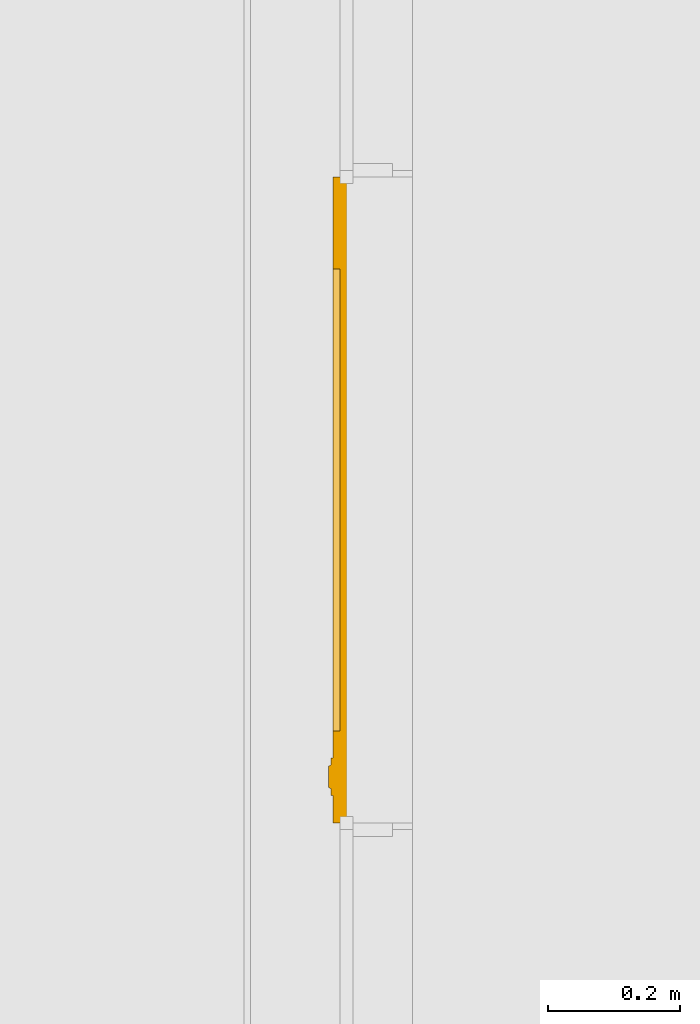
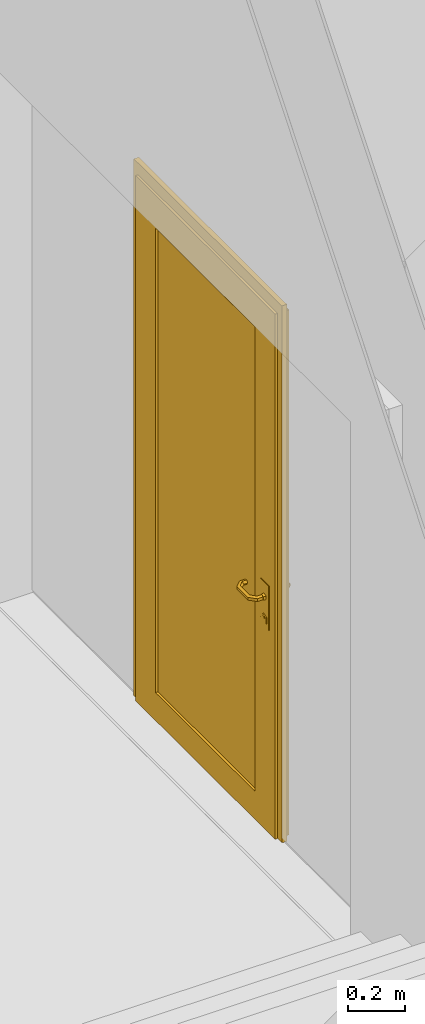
# One storey, part 237 of 260: 1 door, 1 element without a shape of its own.
"""IFC2X3 building model written with IfcOpenShell, lengths in millimetres."""

from ifc_helpers import new_model, entity, si_unit, converted_unit, derived_unit, money_unit, direction, frame, origin_with_axes, place, context, subcontext, project, spatial, open_shell, faceted_brep, surface_model, source, transform, mapped, material, material_list, type_object, element, aggregate, save


model = new_model("IFC2X3")

# Units and contexts
model_context = context("Model", 3, precision=0.01, world=origin_with_axes(), true_north=direction((0.0, 1.0)))
body_context = subcontext(model_context, "Body", "Model", "MODEL_VIEW")
ifc_project = project(units=[si_unit("LENGTHUNIT", "METRE", prefix="MILLI"), si_unit("AREAUNIT", "SQUARE_METRE"), si_unit("VOLUMEUNIT", "CUBIC_METRE"), converted_unit("PLANEANGLEUNIT", "DEGREE", entity("IfcPlaneAngleMeasure", 0.0174532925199), si_unit("PLANEANGLEUNIT", "RADIAN"), dimensions=[0, 0, 0, 0, 0, 0, 0]), money_unit("EUR"), converted_unit("TIMEUNIT", "Year", entity("IfcTimeMeasure", 31556926.0), si_unit("TIMEUNIT", "SECOND"), dimensions=[0, 0, 1, 0, 0, 0, 0]), si_unit("MASSUNIT", "GRAM", prefix="KILO"), si_unit("THERMODYNAMICTEMPERATUREUNIT", "DEGREE_CELSIUS"), si_unit("LUMINOUSINTENSITYUNIT", "LUMEN"), si_unit("ENERGYUNIT", "JOULE", prefix="MEGA"), derived_unit("THERMALCONDUCTANCEUNIT", [(si_unit("POWERUNIT", "WATT"), 1), (si_unit("LENGTHUNIT", "METRE"), -1), (si_unit("THERMODYNAMICTEMPERATUREUNIT", "KELVIN"), -1)]), derived_unit("SPECIFICHEATCAPACITYUNIT", [(si_unit("ENERGYUNIT", "JOULE"), 1), (si_unit("MASSUNIT", "GRAM", prefix="KILO"), -1), (si_unit("THERMODYNAMICTEMPERATUREUNIT", "KELVIN"), -1)]), derived_unit("MASSDENSITYUNIT", [(si_unit("MASSUNIT", "GRAM", prefix="KILO"), 1), (si_unit("VOLUMEUNIT", "CUBIC_METRE"), -1)])], contexts=[model_context])

# Site, building, storey
site_placement = place(None, origin_with_axes())
site = spatial("IfcSite", under=ifc_project, at=site_placement, Name="Kolde pst 67a", CompositionType="ELEMENT")
building_placement = place(site_placement, origin_with_axes())
building = spatial("IfcBuilding", under=site, at=building_placement, Name="Riigigümnaasium", CompositionType="ELEMENT")
storey_placement = place(building_placement, origin_with_axes())
storey = spatial("IfcBuildingStorey", under=building, at=storey_placement, Name="1. korrus", CompositionType="ELEMENT", Elevation=0.0)

# Curtain wall, door
curtain_wall_type = type_object("IfcCurtainWallType", Name="Curtain Wall Type", PredefinedType="NOTDEFINED")
curtain_wall_placement = place(storey_placement, frame((3185.44852283, 58094.9979478, 0.0), z_axis=(0.0, 0.0, 1.0), x_axis=(1.0, 0.0, 0.0)))
curtain_wall = element("IfcCurtainWall", 1, at=curtain_wall_placement, inside=storey, type_object=curtain_wall_type, Name="KLAASSEIN")
ifc_material_1 = material(Name="_METALL - alumiinium")
ifc_material_2 = material(Name="_KLAAS - kirgas")
ifc_material_3 = material(Name="_METALL - roostevaba terasleht, harjatud, 1mm")
ifc_material_list = material_list([ifc_material_1, ifc_material_2, ifc_material_3])
door_style = type_object("IfcDoorStyle", Name="20 x 20 x 20", ConstructionType="NOTDEFINED", OperationType="SINGLE_SWING_RIGHT", ParameterTakesPrecedence=False, Sizeable=False)
shared_shape = source(origin_with_axes(), body_context, "Body", "SurfaceModel", [
    faceted_brep([(990.000013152, 0.0, -35.0), (990.000013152, 2250.00008597, -35.0), (990.000013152, 2250.00008597, -30.0), (990.000013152, 0.0, -30.0), (945.000013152, 0.0, -35.0), (945.000013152, 2205.00008597, -35.0), (945.000013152, 2205.00008597, -30.0), (945.000013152, 0.0, -30.0)], [[[0, 1, 2, 3]], [[0, 4, 5, 1]], [[1, 5, 6, 2]], [[3, 2, 6, 7]], [[4, 0, 3, 7]], [[5, 4, 7, 6]]]),
    faceted_brep([(9.99998697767, 2250.00008597, -35.0), (54.9999869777, 2205.00008597, -35.0), (54.9999869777, 2205.00008597, -30.0), (9.99998697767, 2250.00008597, -30.0), (990.000013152, 2250.00008597, -35.0), (945.000013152, 2205.00008597, -35.0), (945.000013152, 2205.00008597, -30.0), (990.000013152, 2250.00008597, -30.0)], [[[0, 1, 2, 3]], [[0, 4, 5, 1]], [[1, 5, 6, 2]], [[3, 2, 6, 7]], [[4, 0, 3, 7]], [[5, 4, 7, 6]]]),
    faceted_brep([(9.99998697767, 0.0, -35.0), (54.9999869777, 0.0, -35.0), (54.9999869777, 0.0, -30.0), (9.99998697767, 0.0, -30.0), (9.99998697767, 2250.00008597, -35.0), (54.9999869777, 2205.00008597, -35.0), (54.9999869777, 2205.00008597, -30.0), (9.99998697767, 2250.00008597, -30.0)], [[[0, 1, 2, 3]], [[0, 4, 5, 1]], [[1, 5, 6, 2]], [[3, 2, 6, 7]], [[4, 0, 3, 7]], [[5, 4, 7, 6]]]),
    faceted_brep([(990.000013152, 0.0, -30.0), (990.000013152, 2250.00008597, -30.0), (990.000013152, 2250.00008597, 20.0), (990.000013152, 0.0, 20.0), (970.000013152, 0.0, -30.0), (970.000013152, 2230.00008597, -30.0), (970.000013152, 2230.00008597, 20.0), (970.000013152, 0.0, 20.0)], [[[0, 1, 2, 3]], [[0, 4, 5, 1]], [[1, 5, 6, 2]], [[3, 2, 6, 7]], [[4, 0, 3, 7]], [[5, 4, 7, 6]]]),
    faceted_brep([(9.99998697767, 2250.00008597, -30.0), (29.9999869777, 2230.00008597, -30.0), (29.9999869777, 2230.00008597, 20.0), (9.99998697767, 2250.00008597, 20.0), (990.000013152, 2250.00008597, -30.0), (970.000013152, 2230.00008597, -30.0), (970.000013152, 2230.00008597, 20.0), (990.000013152, 2250.00008597, 20.0)], [[[0, 1, 2, 3]], [[0, 4, 5, 1]], [[1, 5, 6, 2]], [[3, 2, 6, 7]], [[4, 0, 3, 7]], [[5, 4, 7, 6]]]),
    faceted_brep([(9.99998697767, 0.0, -30.0), (29.9999869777, 0.0, -30.0), (29.9999869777, 0.0, 20.0), (9.99998697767, 0.0, 20.0), (9.99998697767, 2250.00008597, -30.0), (29.9999869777, 2230.00008597, -30.0), (29.9999869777, 2230.00008597, 20.0), (9.99998697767, 2250.00008597, 20.0)], [[[0, 1, 2, 3]], [[0, 4, 5, 1]], [[1, 5, 6, 2]], [[3, 2, 6, 7]], [[4, 0, 3, 7]], [[5, 4, 7, 6]]]),
    faceted_brep([(1020.00001659, 0.0, -10.0), (1020.00001659, 2300.00008941, -10.0), (1020.00001659, 2300.00008941, 10.0), (1020.00001659, 0.0, 10.0), (990.000013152, 0.0, -10.0), (990.000013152, 2250.00008597, -10.0), (990.000013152, 2250.00008597, 10.0), (990.000013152, 0.0, 10.0)], [[[0, 1, 2, 3]], [[0, 4, 5, 1]], [[1, 5, 6, 2]], [[3, 2, 6, 7]], [[4, 0, 3, 7]], [[5, 4, 7, 6]]]),
    faceted_brep([(1020.00001659, 2300.00008941, -10.0), (-20.0, 2300.00008941, -10.0), (-20.0, 2300.00008941, 10.0), (1020.00001659, 2300.00008941, 10.0), (990.000013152, 2250.00008597, -10.0), (9.99998697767, 2250.00008597, -10.0), (9.99998697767, 2250.00008597, 10.0), (990.000013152, 2250.00008597, 10.0)], [[[0, 1, 2, 3]], [[0, 4, 5, 1]], [[1, 5, 6, 2]], [[3, 2, 6, 7]], [[4, 0, 3, 7]], [[5, 4, 7, 6]]]),
    faceted_brep([(-20.0, 2300.00008941, -10.0), (-20.0, 0.0, -10.0), (-20.0, 0.0, 10.0), (-20.0, 2300.00008941, 10.0), (9.99998697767, 2250.00008597, -10.0), (9.99998697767, 0.0, -10.0), (9.99998697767, 0.0, 10.0), (9.99998697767, 2250.00008597, 10.0)], [[[0, 1, 2, 3]], [[0, 4, 5, 1]], [[1, 5, 6, 2]], [[3, 2, 6, 7]], [[4, 0, 3, 7]], [[5, 4, 7, 6]]]),
    faceted_brep([(149.999986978, 120.0, -30.0), (149.999986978, 2110.00008597, -30.0), (149.999986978, 2110.00008597, 20.0), (149.999986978, 120.0, 20.0), (29.9999869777, 0.0, -30.0), (29.9999869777, 2230.00008597, -30.0), (29.9999869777, 2230.00008597, 20.0), (29.9999869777, 0.0, 20.0)], [[[0, 1, 2, 3]], [[0, 4, 5, 1]], [[1, 5, 6, 2]], [[3, 2, 6, 7]], [[4, 0, 3, 7]], [[5, 4, 7, 6]]]),
    faceted_brep([(970.000013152, 0.0, -30.0), (970.000013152, 2230.00008597, -30.0), (970.000013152, 2230.00008597, 20.0), (970.000013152, 0.0, 20.0), (850.000013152, 120.0, -30.0), (850.000013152, 2110.00008597, -30.0), (850.000013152, 2110.00008597, 20.0), (850.000013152, 120.0, 20.0)], [[[0, 1, 2, 3]], [[0, 4, 5, 1]], [[1, 5, 6, 2]], [[3, 2, 6, 7]], [[4, 0, 3, 7]], [[5, 4, 7, 6]]]),
    faceted_brep([(970.000013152, 0.0, -30.0), (850.000013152, 120.0, -30.0), (850.000013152, 120.0, 20.0), (970.000013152, 0.0, 20.0), (29.9999869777, 0.0, -30.0), (149.999986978, 120.0, -30.0), (149.999986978, 120.0, 20.0), (29.9999869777, 0.0, 20.0)], [[[0, 1, 2, 3]], [[0, 4, 5, 1]], [[1, 5, 6, 2]], [[3, 2, 6, 7]], [[4, 0, 3, 7]], [[5, 4, 7, 6]]]),
    faceted_brep([(29.9999869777, 2230.00008597, -30.0), (149.999986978, 2110.00008597, -30.0), (149.999986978, 2110.00008597, 20.0), (29.9999869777, 2230.00008597, 20.0), (970.000013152, 2230.00008597, -30.0), (850.000013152, 2110.00008597, -30.0), (850.000013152, 2110.00008597, 20.0), (970.000013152, 2230.00008597, 20.0)], [[[0, 1, 2, 3]], [[0, 4, 5, 1]], [[1, 5, 6, 2]], [[3, 2, 6, 7]], [[4, 0, 3, 7]], [[5, 4, 7, 6]]]),
    faceted_brep([(149.999986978, 120.0, -6.0), (850.000013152, 120.0, -6.0), (850.000013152, 120.0, 10.0), (149.999986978, 120.0, 10.0), (149.999986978, 2110.00008597, -6.0), (850.000013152, 2110.00008597, -6.0), (850.000013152, 2110.00008597, 10.0), (149.999986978, 2110.00008597, 10.0)], [[[0, 1, 2, 3]], [[0, 4, 5, 1]], [[1, 5, 6, 2]], [[3, 2, 6, 7]], [[4, 0, 3, 7]], [[5, 4, 7, 6]]]),
    faceted_brep([(948.500013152, 1060.0, 20.0), (891.500013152, 1060.0, 20.0), (891.500013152, 1060.0, 23.0), (948.500013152, 1060.0, 23.0), (948.500013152, 870.0, 20.0), (891.500013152, 870.0, 20.0), (891.500013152, 870.0, 23.0), (948.500013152, 870.0, 23.0)], [[[0, 1, 2, 3]], [[0, 4, 5, 1]], [[1, 5, 6, 2]], [[3, 2, 6, 7]], [[4, 0, 3, 7]], [[5, 4, 7, 6]]]),
    faceted_brep([(916.291809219, 988.587321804, 33.0), (908.000013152, 1000.0, 33.0), (907.000013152, 1000.0, 23.0), (915.982792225, 987.636265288, 23.0), (929.708217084, 992.946576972, 33.0), (929.708217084, 1007.05342303, 33.0), (916.291809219, 1011.4126782, 33.0), (915.982792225, 1012.36373471, 23.0), (930.517234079, 1007.64120828, 23.0), (930.517234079, 992.35879172, 23.0)], [[[0, 1, 2, 3]], [[1, 0, 4, 5, 6]], [[1, 6, 7, 2]], [[2, 7, 8, 9, 3]], [[4, 0, 3, 9]], [[5, 4, 9, 8]], [[6, 5, 8, 7]]]),
    faceted_brep([(913.819673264, 885.978869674, 27.0), (900.000013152, 905.0, 27.0), (898.000013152, 905.0, 23.0), (913.201639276, 884.076756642, 23.0), (936.180353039, 893.244294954, 27.0), (936.180353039, 916.755705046, 27.0), (913.819673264, 924.021130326, 27.0), (913.201639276, 925.923243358, 23.0), (937.798387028, 917.93127555, 23.0), (937.798387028, 892.06872445, 23.0)], [[[0, 1, 2, 3]], [[1, 0, 4, 5, 6]], [[1, 6, 7, 2]], [[2, 7, 8, 9, 3]], [[4, 0, 3, 9]], [[5, 4, 9, 8]], [[6, 5, 8, 7]]]),
    faceted_brep([(917.836894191, 907.342604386, 29.0), (913.000013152, 914.0, 29.0), (912.000013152, 914.0, 27.0), (917.527877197, 906.39154787, 27.0), (925.663132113, 909.885503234, 29.0), (925.663132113, 918.114496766, 29.0), (917.836894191, 920.657395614, 29.0), (917.527877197, 921.60845213, 27.0), (926.472149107, 918.702282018, 27.0), (926.472149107, 909.297717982, 27.0)], [[[0, 1, 2, 3]], [[1, 0, 4, 5, 6]], [[1, 6, 7, 2]], [[2, 7, 8, 9, 3]], [[4, 0, 3, 9]], [[5, 4, 9, 8]], [[6, 5, 8, 7]]]),
    surface_model("IfcShellBasedSurfaceModel", [(910.000013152, 1000.0, 33.0), (916.909843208, 990.489434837, 33.0), (916.909843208, 990.489434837, 51.7200096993), (910.000013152, 1000.0, 48.8578643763), (928.090183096, 994.122147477, 33.0), (928.090183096, 994.122147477, 56.3510581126), (898.720022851, 990.489434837, 69.9098300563), (895.857877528, 1000.0, 63.0), (916.909843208, 1009.51056516, 33.0), (916.909843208, 1009.51056516, 51.7200096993), (928.090183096, 1005.87785252, 33.0), (928.090183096, 1005.87785252, 56.3510581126), (903.351071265, 994.122147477, 81.0901699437), (831.280003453, 990.489434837, 69.9098300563), (834.142148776, 1000.0, 63.0), (898.720022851, 1009.51056516, 69.9098300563), (903.351071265, 1005.87785252, 81.0901699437), (826.648955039, 994.122147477, 81.0901699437), (813.090183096, 990.489434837, 51.7200096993), (820.000013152, 1000.0, 48.8578643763), (831.280003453, 1009.51056516, 69.9098300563), (826.648955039, 1005.87785252, 81.0901699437), (801.909843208, 994.122147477, 56.3510581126), (813.090183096, 990.489434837, 33.0), (820.000013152, 1000.0, 33.0), (813.090183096, 1009.51056516, 51.7200096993), (801.909843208, 1005.87785252, 56.3510581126), (801.909843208, 994.122147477, 33.0), (801.909843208, 1005.87785252, 33.0), (813.090183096, 1009.51056516, 33.0)], [open_shell([[[0, 1, 2, 3]], [[1, 4, 5, 2]], [[3, 2, 6, 7]], [[8, 0, 3, 9]], [[4, 10, 11, 5]], [[2, 5, 12, 6]], [[7, 6, 13, 14]], [[9, 3, 7, 15]], [[10, 8, 9, 11]], [[5, 11, 16, 12]], [[6, 12, 17, 13]], [[14, 13, 18, 19]], [[15, 7, 14, 20]], [[11, 9, 15, 16]], [[12, 16, 21, 17]], [[13, 17, 22, 18]], [[19, 18, 23, 24]], [[20, 14, 19, 25]], [[16, 15, 20, 21]], [[17, 21, 26, 22]], [[18, 22, 27, 23]], [[24, 23, 27, 28, 29]], [[25, 19, 24, 29]], [[21, 20, 25, 26]], [[22, 26, 28, 27]], [[26, 25, 29, 28]]])]),
    faceted_brep([(948.500013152, 1060.0, -30.0), (948.500013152, 1060.0, -33.0), (891.500013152, 1060.0, -33.0), (891.500013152, 1060.0, -30.0), (948.500013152, 870.0, -30.0), (948.500013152, 870.0, -33.0), (891.500013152, 870.0, -33.0), (891.500013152, 870.0, -30.0)], [[[0, 1, 2, 3]], [[4, 5, 1, 0]], [[1, 5, 6, 2]], [[3, 2, 6, 7]], [[0, 3, 7, 4]], [[7, 6, 5, 4]]]),
    faceted_brep([(916.291809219, 988.587321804, -43.0), (915.982792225, 987.636265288, -33.0), (907.000013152, 1000.0, -33.0), (908.000013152, 1000.0, -43.0), (929.708217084, 992.946576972, -43.0), (930.517234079, 992.35879172, -33.0), (930.517234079, 1007.64120828, -33.0), (915.982792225, 1012.36373471, -33.0), (916.291809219, 1011.4126782, -43.0), (929.708217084, 1007.05342303, -43.0)], [[[0, 1, 2, 3]], [[4, 5, 1, 0]], [[2, 1, 5, 6, 7]], [[3, 2, 7, 8]], [[3, 8, 9, 4, 0]], [[9, 6, 5, 4]], [[8, 7, 6, 9]]]),
    faceted_brep([(913.819673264, 885.978869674, -37.0), (913.201639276, 884.076756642, -33.0), (898.000013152, 905.0, -33.0), (900.000013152, 905.0, -37.0), (936.180353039, 893.244294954, -37.0), (937.798387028, 892.06872445, -33.0), (937.798387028, 917.93127555, -33.0), (913.201639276, 925.923243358, -33.0), (913.819673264, 924.021130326, -37.0), (936.180353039, 916.755705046, -37.0)], [[[0, 1, 2, 3]], [[4, 5, 1, 0]], [[2, 1, 5, 6, 7]], [[3, 2, 7, 8]], [[3, 8, 9, 4, 0]], [[9, 6, 5, 4]], [[8, 7, 6, 9]]]),
    faceted_brep([(917.836894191, 907.342604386, -39.0), (917.527877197, 906.39154787, -37.0), (912.000013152, 914.0, -37.0), (913.000013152, 914.0, -39.0), (925.663132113, 909.885503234, -39.0), (926.472149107, 909.297717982, -37.0), (926.472149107, 918.702282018, -37.0), (917.527877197, 921.60845213, -37.0), (917.836894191, 920.657395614, -39.0), (925.663132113, 918.114496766, -39.0)], [[[0, 1, 2, 3]], [[4, 5, 1, 0]], [[2, 1, 5, 6, 7]], [[3, 2, 7, 8]], [[3, 8, 9, 4, 0]], [[9, 6, 5, 4]], [[8, 7, 6, 9]]]),
    surface_model("IfcShellBasedSurfaceModel", [(910.000013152, 1000.0, -43.0), (910.000013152, 1000.0, -58.8578643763), (916.909843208, 990.489434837, -61.7200096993), (916.909843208, 990.489434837, -43.0), (916.909843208, 1009.51056516, -43.0), (916.909843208, 1009.51056516, -61.7200096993), (895.857877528, 1000.0, -73.0), (898.720022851, 990.489434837, -79.9098300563), (928.090183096, 994.122147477, -66.3510581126), (928.090183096, 994.122147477, -43.0), (928.090183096, 1005.87785252, -43.0), (928.090183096, 1005.87785252, -66.3510581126), (898.720022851, 1009.51056516, -79.9098300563), (834.142148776, 1000.0, -73.0), (831.280003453, 990.489434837, -79.9098300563), (903.351071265, 994.122147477, -91.0901699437), (903.351071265, 1005.87785252, -91.0901699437), (831.280003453, 1009.51056516, -79.9098300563), (820.000013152, 1000.0, -58.8578643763), (813.090183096, 990.489434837, -61.7200096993), (826.648955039, 994.122147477, -91.0901699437), (826.648955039, 1005.87785252, -91.0901699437), (813.090183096, 1009.51056516, -61.7200096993), (820.000013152, 1000.0, -43.0), (813.090183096, 990.489434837, -43.0), (801.909843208, 994.122147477, -66.3510581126), (801.909843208, 1005.87785252, -66.3510581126), (813.090183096, 1009.51056516, -43.0), (801.909843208, 1005.87785252, -43.0), (801.909843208, 994.122147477, -43.0)], [open_shell([[[0, 1, 2, 3]], [[4, 5, 1, 0]], [[1, 6, 7, 2]], [[3, 2, 8, 9]], [[10, 11, 5, 4]], [[5, 12, 6, 1]], [[6, 13, 14, 7]], [[2, 7, 15, 8]], [[9, 8, 11, 10]], [[11, 16, 12, 5]], [[12, 17, 13, 6]], [[13, 18, 19, 14]], [[7, 14, 20, 15]], [[8, 15, 16, 11]], [[16, 21, 17, 12]], [[17, 22, 18, 13]], [[18, 23, 24, 19]], [[14, 19, 25, 20]], [[15, 20, 21, 16]], [[21, 26, 22, 17]], [[22, 27, 23, 18]], [[23, 27, 28, 29, 24]], [[19, 24, 29, 25]], [[20, 25, 26, 21]], [[26, 28, 27, 22]], [[25, 29, 28, 26]]])]),
])
door_placement = place(curtain_wall_placement, frame((0.0, 0.0, 1150.0000447), z_axis=(0.0, 0.0, 1.0), x_axis=(0.0, 1.0, 0.0)))
door = element("IfcDoor", 2, at=door_placement, type_object=door_style, material=ifc_material_list, Name="Ühepoolne siseuks", ObjectType="DOOR", OverallHeight=2250.0, OverallWidth=980.0, context=body_context, shape_type="MappedRepresentation", body=[
    mapped(shared_shape, transform((500.0, 0.0, -1150.0000447), x_axis=(-1.0, 0.0, 0.0), y_axis=(0.0, 0.0, 1.0), z_axis=(0.0, 1.0, 0.0))),
])
aggregate(curtain_wall, [door])

save(model, "model.ifc")
